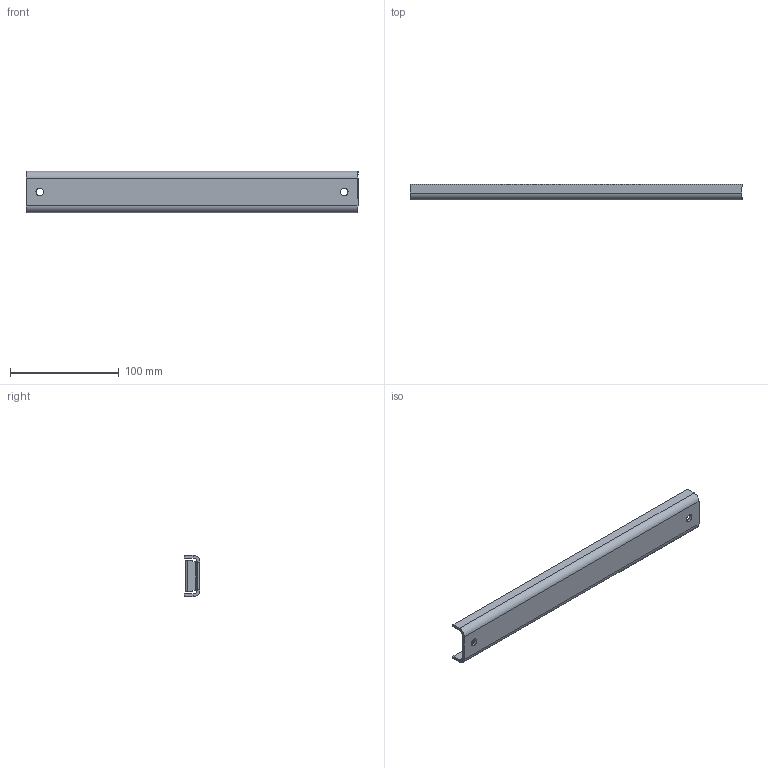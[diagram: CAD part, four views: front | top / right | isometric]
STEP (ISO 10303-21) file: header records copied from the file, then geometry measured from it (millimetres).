
FILE_DESCRIPTION (( 'STEP AP203' ), '1' );
FILE_NAME ('MQ1130.STEP', '2018-08-17T20:28:42', ( '' ), ( '' ), 'SwSTEP 2.0', 'SolidWorks 2015', '' );
FILE_SCHEMA (( 'CONFIG_CONTROL_DESIGN' ));
Length unit declared in the file: inch
Products named in the file (1): MQ1130
Bounding box: 304.8 x 14.61 x 38.1 mm (x, y, z)
Volume: 51531 mm3; surface area: 55842.9 mm2
Topology: 2 solids, 2 shells, 86 faces, 198 edges, 116 vertices
Faces by surface type: plane 60, cylinder 26
Entity records: 2463 total; most frequent: DIRECTION 424, CARTESIAN_POINT 401, ORIENTED_EDGE 396, EDGE_CURVE 198, LINE 146, VECTOR 146, AXIS2_PLACEMENT_3D 139, VERTEX_POINT 116
